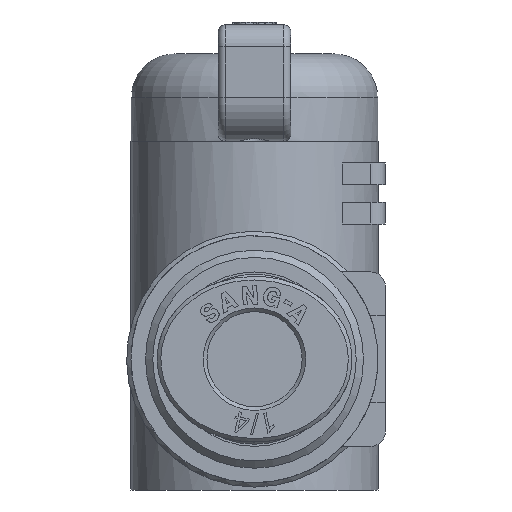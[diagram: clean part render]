
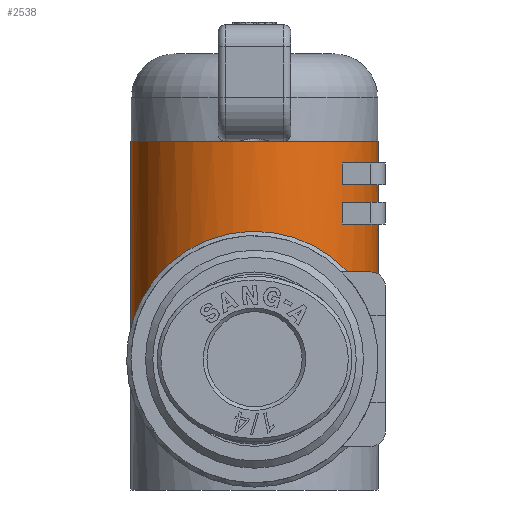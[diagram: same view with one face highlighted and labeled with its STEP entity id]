
A CAD part, front view. The second image highlights one B-rep face of the part: STEP entity #2538.
In plain terms, the highlighted cylindrical face has radius 8.5 mm (diameter 17 mm), a full revolution.
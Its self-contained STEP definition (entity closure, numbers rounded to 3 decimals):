
#186=CARTESIAN_POINT('',(204.269,21.572,1.391));
#187=VERTEX_POINT('',#186);
#188=CARTESIAN_POINT('',(204.269,21.572,-0.109));
#189=VERTEX_POINT('',#188);
#190=CARTESIAN_POINT('',(204.269,21.572,1.391));
#191=DIRECTION('',(0.0,0.0,-1.0));
#192=VECTOR('',#191,1.5);
#193=LINE('',#190,#192);
#194=EDGE_CURVE('',#187,#189,#193,.T.);
#226=CARTESIAN_POINT('',(204.269,15.828,-0.109));
#227=VERTEX_POINT('',#226);
#228=CARTESIAN_POINT('',(204.269,15.828,1.391));
#229=VERTEX_POINT('',#228);
#230=CARTESIAN_POINT('',(204.269,15.828,-0.109));
#231=DIRECTION('',(0.0,0.0,1.0));
#232=VECTOR('',#231,1.5);
#233=LINE('',#230,#232);
#234=EDGE_CURVE('',#227,#229,#233,.T.);
#1500=CARTESIAN_POINT('',(204.769,18.7,-12.109));
#1501=VERTEX_POINT('',#1500);
#1502=CARTESIAN_POINT('',(187.769,18.7,-12.109));
#1503=VERTEX_POINT('',#1502);
#1555=CARTESIAN_POINT('',(204.769,18.7,2.891));
#1556=VERTEX_POINT('',#1555);
#1557=CARTESIAN_POINT('',(196.269,18.7,2.891));
#1558=DIRECTION('',(0.0,0.0,-1.0));
#1559=DIRECTION('',(-1.0,0.0,0.0));
#1560=AXIS2_PLACEMENT_3D('',#1557,#1558,#1559);
#1561=CIRCLE('',#1560,8.5);
#1562=EDGE_CURVE('',#1556,#1556,#1561,.T.);
#2073=CARTESIAN_POINT('',(202.289,12.7,-2.809));
#2074=VERTEX_POINT('',#2073);
#2081=CARTESIAN_POINT('',(202.289,24.7,-2.809));
#2082=VERTEX_POINT('',#2081);
#2083=CARTESIAN_POINT('',(196.269,18.7,-2.809));
#2084=DIRECTION('',(0.0,0.0,-1.0));
#2085=DIRECTION('',(-1.0,0.0,0.0));
#2086=AXIS2_PLACEMENT_3D('',#2083,#2084,#2085);
#2087=CIRCLE('',#2086,8.5);
#2088=EDGE_CURVE('',#2082,#2074,#2087,.T.);
#2139=CARTESIAN_POINT('',(202.289,12.7,-1.309));
#2140=VERTEX_POINT('',#2139);
#2141=CARTESIAN_POINT('',(202.289,24.7,-1.309));
#2142=VERTEX_POINT('',#2141);
#2143=CARTESIAN_POINT('',(196.269,18.7,-1.309));
#2144=DIRECTION('',(0.0,0.0,1.0));
#2145=DIRECTION('',(-1.0,0.0,0.0));
#2146=AXIS2_PLACEMENT_3D('',#2143,#2144,#2145);
#2147=CIRCLE('',#2146,8.5);
#2148=EDGE_CURVE('',#2140,#2142,#2147,.T.);
#2175=CARTESIAN_POINT('',(202.289,24.7,-1.309));
#2176=DIRECTION('',(0.0,0.0,-1.0));
#2177=VECTOR('',#2176,1.5);
#2178=LINE('',#2175,#2177);
#2179=EDGE_CURVE('',#2142,#2082,#2178,.T.);
#2233=CARTESIAN_POINT('',(202.289,12.7,1.391));
#2234=VERTEX_POINT('',#2233);
#2241=CARTESIAN_POINT('',(202.289,12.7,-0.109));
#2242=VERTEX_POINT('',#2241);
#2243=CARTESIAN_POINT('',(202.289,12.7,-0.109));
#2244=DIRECTION('',(0.0,0.0,1.0));
#2245=VECTOR('',#2244,1.5);
#2246=LINE('',#2243,#2245);
#2247=EDGE_CURVE('',#2242,#2234,#2246,.T.);
#2279=CARTESIAN_POINT('',(196.269,18.7,1.391));
#2280=DIRECTION('',(0.0,0.0,1.0));
#2281=DIRECTION('',(-1.0,0.0,0.0));
#2282=AXIS2_PLACEMENT_3D('',#2279,#2280,#2281);
#2283=CIRCLE('',#2282,8.5);
#2284=EDGE_CURVE('',#2234,#229,#2283,.T.);
#2369=CARTESIAN_POINT('',(202.289,24.7,1.391));
#2370=VERTEX_POINT('',#2369);
#2377=CARTESIAN_POINT('',(196.269,18.7,1.391));
#2378=DIRECTION('',(0.0,0.0,1.0));
#2379=DIRECTION('',(-1.0,0.0,0.0));
#2380=AXIS2_PLACEMENT_3D('',#2377,#2378,#2379);
#2381=CIRCLE('',#2380,8.5);
#2382=EDGE_CURVE('',#187,#2370,#2381,.T.);
#2472=CARTESIAN_POINT('',(196.269,18.7,-12.109));
#2473=DIRECTION('',(0.0,0.0,1.0));
#2474=DIRECTION('',(-1.0,0.0,0.0));
#2475=AXIS2_PLACEMENT_3D('',#2472,#2473,#2474);
#2476=CYLINDRICAL_SURFACE('',#2475,8.5);
#2477=ORIENTED_EDGE('',*,*,#1562,.T.);
#2478=EDGE_LOOP('',(#2477));
#2479=FACE_OUTER_BOUND('',#2478,.T.);
#2480=CARTESIAN_POINT('',(196.269,18.7,-0.109));
#2481=DIRECTION('',(0.0,0.0,-1.0));
#2482=DIRECTION('',(-1.0,0.0,0.0));
#2483=AXIS2_PLACEMENT_3D('',#2480,#2481,#2482);
#2484=CIRCLE('',#2483,8.5);
#2485=EDGE_CURVE('',#227,#2242,#2484,.T.);
#2486=ORIENTED_EDGE('',*,*,#2485,.T.);
#2487=ORIENTED_EDGE('',*,*,#2247,.T.);
#2488=ORIENTED_EDGE('',*,*,#2284,.T.);
#2489=ORIENTED_EDGE('',*,*,#234,.F.);
#2490=EDGE_LOOP('',(#2486,#2487,#2488,#2489));
#2491=FACE_BOUND('',#2490,.T.);
#2492=ORIENTED_EDGE('',*,*,#2148,.T.);
#2493=ORIENTED_EDGE('',*,*,#2179,.T.);
#2494=ORIENTED_EDGE('',*,*,#2088,.T.);
#2495=CARTESIAN_POINT('',(202.289,12.7,-2.809));
#2496=DIRECTION('',(0.0,0.0,1.0));
#2497=VECTOR('',#2496,1.5);
#2498=LINE('',#2495,#2497);
#2499=EDGE_CURVE('',#2074,#2140,#2498,.T.);
#2500=ORIENTED_EDGE('',*,*,#2499,.T.);
#2501=EDGE_LOOP('',(#2492,#2493,#2494,#2500));
#2502=FACE_BOUND('',#2501,.T.);
#2503=CARTESIAN_POINT('',(196.269,18.7,-12.109));
#2504=DIRECTION('',(0.0,-0.707,-0.707));
#2505=DIRECTION('',(0.0,-0.707,0.707));
#2506=AXIS2_PLACEMENT_3D('',#2503,#2504,#2505);
#2507=ELLIPSE('',#2506,12.021,8.5);
#2508=EDGE_CURVE('',#1501,#1503,#2507,.T.);
#2509=ORIENTED_EDGE('',*,*,#2508,.F.);
#2510=CARTESIAN_POINT('',(196.269,18.7,-12.109));
#2511=DIRECTION('',(0.0,0.707,-0.707));
#2512=DIRECTION('',(0.0,-0.707,-0.707));
#2513=AXIS2_PLACEMENT_3D('',#2510,#2511,#2512);
#2514=ELLIPSE('',#2513,12.021,8.5);
#2515=EDGE_CURVE('',#1503,#1501,#2514,.T.);
#2516=ORIENTED_EDGE('',*,*,#2515,.F.);
#2517=EDGE_LOOP('',(#2509,#2516));
#2518=FACE_BOUND('',#2517,.T.);
#2519=ORIENTED_EDGE('',*,*,#194,.F.);
#2520=ORIENTED_EDGE('',*,*,#2382,.T.);
#2521=CARTESIAN_POINT('',(202.289,24.7,-0.109));
#2522=VERTEX_POINT('',#2521);
#2523=CARTESIAN_POINT('',(202.289,24.7,1.391));
#2524=DIRECTION('',(0.0,0.0,-1.0));
#2525=VECTOR('',#2524,1.5);
#2526=LINE('',#2523,#2525);
#2527=EDGE_CURVE('',#2370,#2522,#2526,.T.);
#2528=ORIENTED_EDGE('',*,*,#2527,.T.);
#2529=CARTESIAN_POINT('',(196.269,18.7,-0.109));
#2530=DIRECTION('',(0.0,0.0,-1.0));
#2531=DIRECTION('',(-1.0,0.0,0.0));
#2532=AXIS2_PLACEMENT_3D('',#2529,#2530,#2531);
#2533=CIRCLE('',#2532,8.5);
#2534=EDGE_CURVE('',#2522,#189,#2533,.T.);
#2535=ORIENTED_EDGE('',*,*,#2534,.T.);
#2536=EDGE_LOOP('',(#2519,#2520,#2528,#2535));
#2537=FACE_BOUND('',#2536,.T.);
#2538=ADVANCED_FACE('',(#2479,#2491,#2502,#2518,#2537),#2476,.T.);
